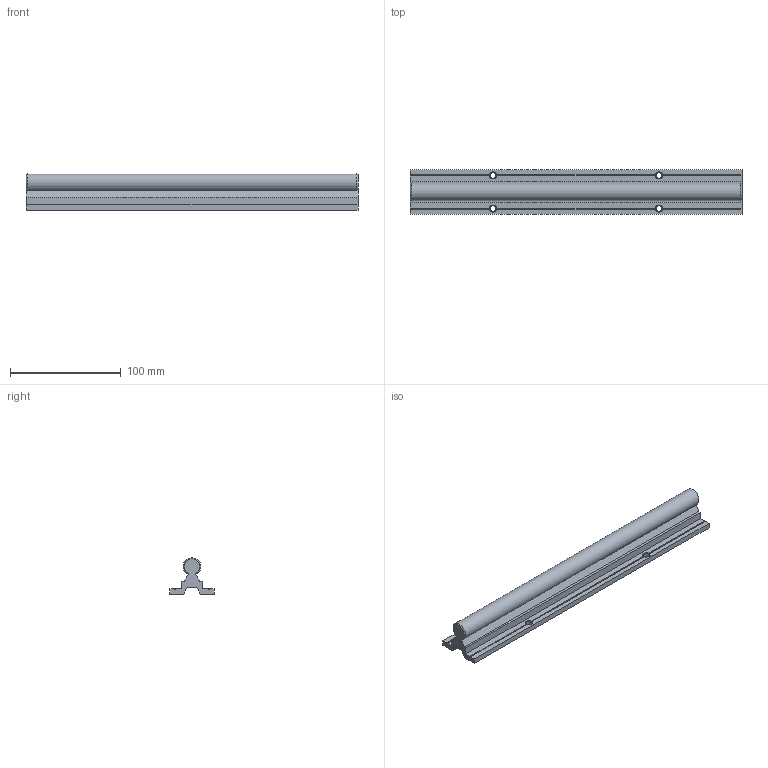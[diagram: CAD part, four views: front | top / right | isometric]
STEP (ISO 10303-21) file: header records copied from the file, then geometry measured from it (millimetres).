
FILE_DESCRIPTION(/* description */ (''),/* implementation_level */ '2;1');
FILE_NAME(/* name */ 'C:\Users\David\Desktop\stepFiles\Profilfuehrung\LFS16x300.stp',/* time_stamp */ '2018-06-24T15:18:09+02:00',/* author */ ('Buskamp'),/* organization */ (''),/* preprocessor_version */ 'ST-DEVELOPER v17',/* originating_system */ 'Autodesk Inventor 2019',/* authorisation */ '');
FILE_SCHEMA (('AUTOMOTIVE_DESIGN { 1 0 10303 214 3 1 1 }'));
Length unit declared in the file: millimetre
Products named in the file (1): Linearführung D16xvariabel
Bounding box: 300 x 40 x 32.97 mm (x, y, z)
Volume: 153170.2 mm3; surface area: 47865.7 mm2
Topology: 1 solids, 1 shells, 52 faces, 150 edges, 96 vertices
Faces by surface type: plane 37, cone 10, cylinder 5
Full cylindrical faces by diameter (mm): 5.5 x4
Entity records: 1733 total; most frequent: CARTESIAN_POINT 339, ORIENTED_EDGE 300, DIRECTION 276, EDGE_CURVE 150, VERTEX_POINT 96, AXIS2_PLACEMENT_3D 93, LINE 90, VECTOR 90
